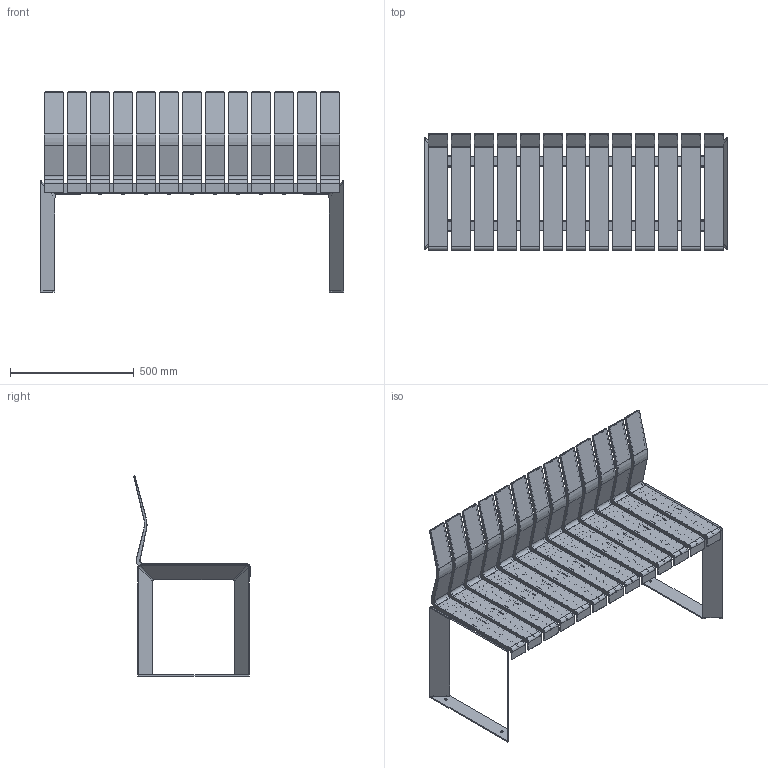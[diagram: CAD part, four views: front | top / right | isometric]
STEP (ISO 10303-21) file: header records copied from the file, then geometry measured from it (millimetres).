
FILE_DESCRIPTION(('STEP AP203'),'1');
FILE_NAME('UT80PL1350AXX + FIANCHI.stp','2025-11-11T12:58:56',(' '),(' '),'Spatial InterOp 3D',' ',' ');
FILE_SCHEMA(('CONFIG_CONTROL_DESIGN'));
Length unit declared in the file: millimetre
Products named in the file (1): UT80PL1350AXX + FIANCHI
Bounding box: 1229.16 x 472.09 x 809.28 mm (x, y, z)
Surface area: 3308397 mm2 (no closed solid volume)
Topology: 0 solids, 273 shells, 4011 faces, 16363 edges, 12064 vertices
Faces by surface type: cylinder 1592, plane 1557, torus 532, bspline 256, extrusion 40, cone 34
Full cylindrical faces by diameter (mm): 6.8 x8, 8 x4, 10 x4, 13 x8, 17.8 x30
Entity records: 197634 total; most frequent: CARTESIAN_POINT 68654, DIRECTION 26132, ORIENTED_EDGE 23480, EDGE_CURVE 16218, VERTEX_POINT 12048, VECTOR 9380, LINE 9340, AXIS2_PLACEMENT_3D 8376
